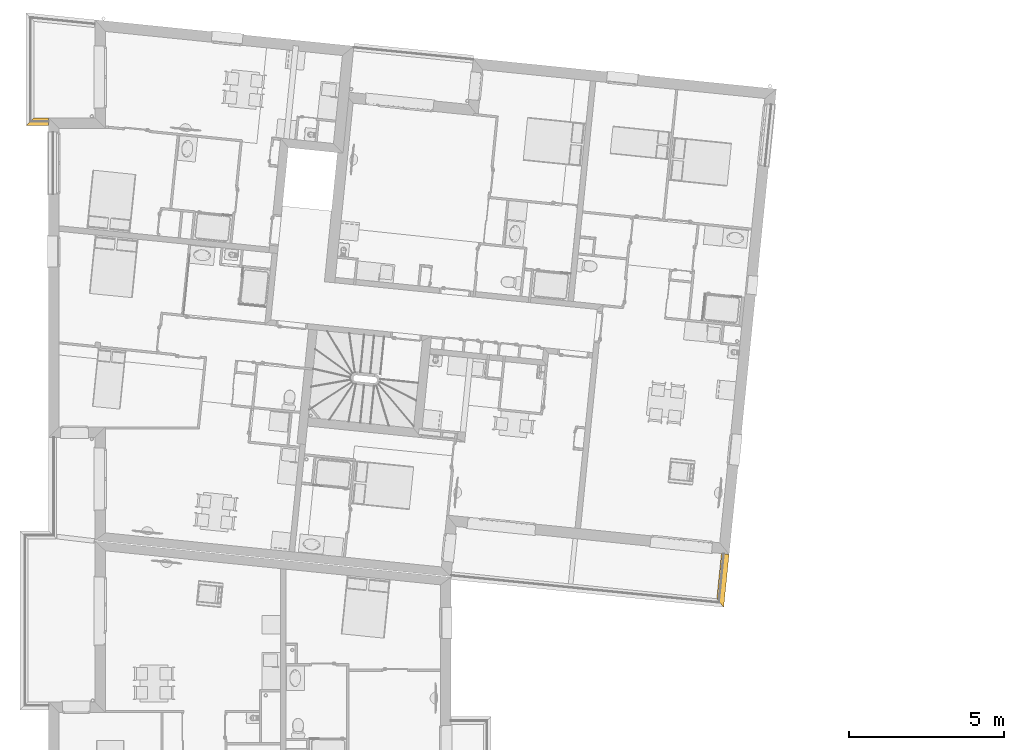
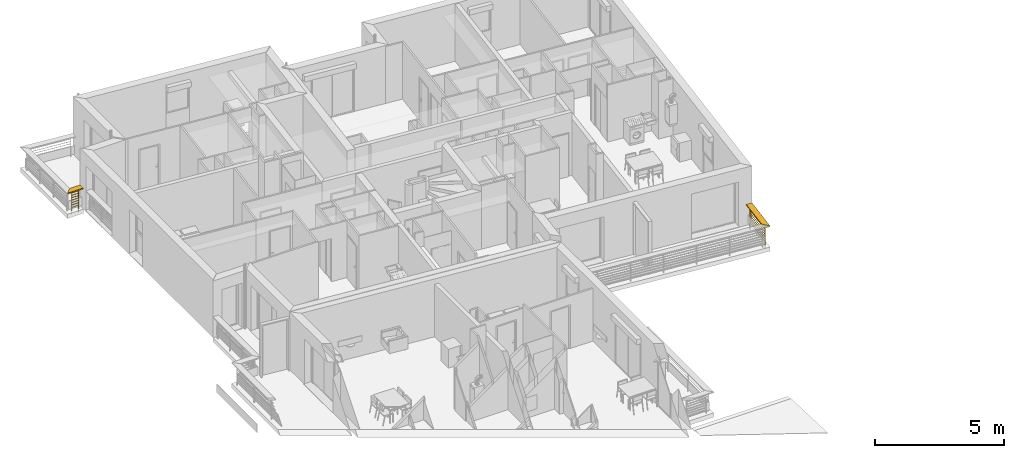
# One storey, part 105 of 164: 2 railings.
"""IFC2X3 building model written with IfcOpenShell, lengths in millimetres."""

from ifc_helpers import new_model, entity, si_unit, converted_unit, derived_unit, money_unit, direction, frame, origin_with_axes, place, context, subcontext, project, spatial, faceted_brep, type_object, element, save


model = new_model("IFC2X3")

# Units and contexts
model_context = context("Model", 3, precision=0.01, world=origin_with_axes(), true_north=direction((0.0, 1.0)))
body_context = subcontext(model_context, "Body", "Model", "MODEL_VIEW")
ifc_project = project(units=[si_unit("LENGTHUNIT", "METRE", prefix="MILLI"), si_unit("AREAUNIT", "SQUARE_METRE"), si_unit("VOLUMEUNIT", "CUBIC_METRE"), converted_unit("PLANEANGLEUNIT", "DEGREE", entity("IfcPlaneAngleMeasure", 0.0174532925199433), si_unit("PLANEANGLEUNIT", "RADIAN"), dimensions=[0, 0, 0, 0, 0, 0, 0]), money_unit("USD"), converted_unit("TIMEUNIT", "Year", entity("IfcTimeMeasure", 31557600.0), si_unit("TIMEUNIT", "SECOND"), dimensions=[0, 0, 1, 0, 0, 0, 0]), si_unit("MASSUNIT", "GRAM", prefix="KILO"), si_unit("THERMODYNAMICTEMPERATUREUNIT", "DEGREE_CELSIUS"), si_unit("LUMINOUSINTENSITYUNIT", "LUMEN"), si_unit("ENERGYUNIT", "JOULE", prefix="MEGA"), derived_unit("THERMALCONDUCTANCEUNIT", [(si_unit("POWERUNIT", "WATT"), 1), (si_unit("LENGTHUNIT", "METRE"), -1), (si_unit("THERMODYNAMICTEMPERATUREUNIT", "KELVIN"), -1)]), derived_unit("SPECIFICHEATCAPACITYUNIT", [(si_unit("ENERGYUNIT", "JOULE"), 1), (si_unit("MASSUNIT", "GRAM", prefix="KILO"), -1), (si_unit("THERMODYNAMICTEMPERATUREUNIT", "KELVIN"), -1)]), derived_unit("MASSDENSITYUNIT", [(si_unit("MASSUNIT", "GRAM", prefix="KILO"), 1), (si_unit("VOLUMEUNIT", "CUBIC_METRE"), -1)])], contexts=[model_context])

# Site, building, storey
site_placement = place(None, origin_with_axes())
site = spatial("IfcSite", under=ifc_project, at=site_placement, Name="Site", CompositionType="ELEMENT")
building_placement = place(site_placement, origin_with_axes())
building = spatial("IfcBuilding", under=site, at=building_placement, Name="Bâtiment", CompositionType="ELEMENT")
storey_placement = place(building_placement, frame((0.0, 0.0, 5750.0), z_axis=(0.0, 0.0, 1.0), x_axis=(1.0, 0.0, 0.0)))
storey = spatial("IfcBuildingStorey", under=building, at=storey_placement, Name="Etage1", CompositionType="ELEMENT", Elevation=5750.0)

# Railings
railing_type = type_object("IfcRailingType", Name="Cadre avec câble 01 20", PredefinedType="NOTDEFINED")
railing_1_placement = place(storey_placement, frame((2238367.398461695, -622865.4537153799, 0.0), z_axis=(0.0, 0.0, 1.0), x_axis=(0.1010841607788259, 0.9948778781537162, 0.0)))
element("IfcRailing", 1, at=railing_1_placement, inside=storey, type_object=railing_type, Name="Obj.-002", PredefinedType="NOTDEFINED", context=body_context, shape_type="Brep", body=[
    faceted_brep([(-124.946485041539, -125.0, 950.0), (124.9464850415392, 125.0, 950.0), (1591.047939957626, 125.0, 950.0), (1591.047939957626, -125.0, 950.0), (-124.946485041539, -125.0, 1000.0), (124.9464850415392, 125.0, 1000.0), (1591.047939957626, 125.0, 1000.0), (1591.047939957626, -125.0, 1000.0)], [[[0, 1, 2, 3]], [[0, 4, 5, 1]], [[2, 1, 5, 6]], [[3, 2, 6, 7]], [[4, 0, 3, 7]], [[5, 4, 7, 6]]]),
    faceted_brep([(84.99999999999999, -25.0, -176.0), (95.0, -25.0, -176.0), (95.0, -25.0, 950.0), (84.99999999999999, -25.0, 950.0), (84.99999999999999, 25.0, -176.0), (95.0, 25.0, -176.0), (95.0, 25.0, 950.0), (84.99999999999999, 25.0, 950.0)], [[[0, 1, 2, 3]], [[0, 4, 5, 1]], [[1, 5, 6, 2]], [[3, 2, 6, 7]], [[4, 0, 3, 7]], [[5, 4, 7, 6]]]),
    faceted_brep([(1496.047939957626, -25.0, -176.0), (1506.047939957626, -25.0, -176.0), (1506.047939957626, -25.0, 950.0), (1496.047939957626, -25.0, 950.0), (1496.047939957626, 25.0, -176.0), (1506.047939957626, 25.0, -176.0), (1506.047939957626, 25.0, 950.0), (1496.047939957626, 25.0, 950.0)], [[[0, 1, 2, 3]], [[0, 4, 5, 1]], [[1, 5, 6, 2]], [[3, 2, 6, 7]], [[4, 0, 3, 7]], [[5, 4, 7, 6]]]),
    faceted_brep([(95.0, 10.82531754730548, 156.25), (95.0, 12.5, 162.5), (1496.047939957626, 12.5, 162.5000000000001), (1496.047939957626, 10.82531754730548, 156.2500000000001), (95.0, 10.82531754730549, 168.75), (95.0, 6.249999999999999, 151.6746824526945), (95.0, 0.0, 150.0), (95.0, -6.250000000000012, 151.6746824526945), (95.0, -10.82531754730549, 156.25), (95.0, -12.5, 162.5), (95.0, -10.82531754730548, 168.75), (95.0, -6.249999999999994, 173.3253175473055), (95.0, 0.0, 175.0), (95.0, 6.250000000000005, 173.3253175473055), (1496.047939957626, 10.82531754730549, 168.7500000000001), (1496.047939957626, 6.250000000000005, 173.3253175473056), (1496.047939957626, 0.0, 175.0000000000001), (1496.047939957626, -6.249999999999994, 173.3253175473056), (1496.047939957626, -10.82531754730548, 168.7500000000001), (1496.047939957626, -12.5, 162.5000000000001), (1496.047939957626, -10.82531754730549, 156.2500000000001), (1496.047939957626, -6.250000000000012, 151.6746824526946), (1496.047939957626, 0.0, 150.0000000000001), (1496.047939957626, 6.249999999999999, 151.6746824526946)], [[[0, 1, 2, 3]], [[4, 1, 0, 5, 6, 7, 8, 9, 10, 11, 12, 13]], [[1, 4, 14, 2]], [[3, 2, 14, 15, 16, 17, 18, 19, 20, 21, 22, 23]], [[5, 0, 3, 23]], [[6, 5, 23, 22]], [[7, 6, 22, 21]], [[8, 7, 21, 20]], [[9, 8, 20, 19]], [[10, 9, 19, 18]], [[11, 10, 18, 17]], [[12, 11, 17, 16]], [[13, 12, 16, 15]], [[4, 13, 15, 14]]]),
    faceted_brep([(95.0, 10.82531754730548, 270.5357142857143), (95.0, 12.5, 276.7857142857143), (1496.047939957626, 12.5, 276.7857142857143), (1496.047939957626, 10.82531754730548, 270.5357142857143), (95.0, 10.82531754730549, 283.0357142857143), (95.0, 6.249999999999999, 265.9603967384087), (95.0, 0.0, 264.2857142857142), (95.0, -6.250000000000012, 265.9603967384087), (95.0, -10.82531754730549, 270.5357142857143), (95.0, -12.5, 276.7857142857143), (95.0, -10.82531754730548, 283.0357142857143), (95.0, -6.249999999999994, 287.6110318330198), (95.0, 0.0, 289.2857142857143), (95.0, 6.250000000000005, 287.6110318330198), (1496.047939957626, 10.82531754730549, 283.0357142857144), (1496.047939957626, 6.250000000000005, 287.6110318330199), (1496.047939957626, 0.0, 289.2857142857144), (1496.047939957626, -6.249999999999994, 287.6110318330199), (1496.047939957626, -10.82531754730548, 283.0357142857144), (1496.047939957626, -12.5, 276.7857142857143), (1496.047939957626, -10.82531754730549, 270.5357142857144), (1496.047939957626, -6.250000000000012, 265.9603967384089), (1496.047939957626, 0.0, 264.2857142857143), (1496.047939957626, 6.249999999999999, 265.9603967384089)], [[[0, 1, 2, 3]], [[4, 1, 0, 5, 6, 7, 8, 9, 10, 11, 12, 13]], [[1, 4, 14, 2]], [[3, 2, 14, 15, 16, 17, 18, 19, 20, 21, 22, 23]], [[5, 0, 3, 23]], [[6, 5, 23, 22]], [[7, 6, 22, 21]], [[8, 7, 21, 20]], [[9, 8, 20, 19]], [[10, 9, 19, 18]], [[11, 10, 18, 17]], [[12, 11, 17, 16]], [[13, 12, 16, 15]], [[4, 13, 15, 14]]]),
    faceted_brep([(95.0, 10.82531754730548, 384.8214285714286), (95.0, 12.5, 391.0714285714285), (1496.047939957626, 12.5, 391.0714285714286), (1496.047939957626, 10.82531754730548, 384.8214285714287), (95.0, 10.82531754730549, 397.3214285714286), (95.0, 6.249999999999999, 380.2461110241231), (95.0, 0.0, 378.5714285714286), (95.0, -6.250000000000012, 380.2461110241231), (95.0, -10.82531754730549, 384.8214285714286), (95.0, -12.5, 391.0714285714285), (95.0, -10.82531754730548, 397.3214285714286), (95.0, -6.249999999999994, 401.896746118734), (95.0, 0.0, 403.5714285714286), (95.0, 6.250000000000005, 401.896746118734), (1496.047939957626, 10.82531754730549, 397.3214285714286), (1496.047939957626, 6.250000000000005, 401.8967461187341), (1496.047939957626, 0.0, 403.5714285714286), (1496.047939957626, -6.249999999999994, 401.8967461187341), (1496.047939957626, -10.82531754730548, 397.3214285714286), (1496.047939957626, -12.5, 391.0714285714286), (1496.047939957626, -10.82531754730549, 384.8214285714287), (1496.047939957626, -6.250000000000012, 380.2461110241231), (1496.047939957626, 0.0, 378.5714285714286), (1496.047939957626, 6.249999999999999, 380.2461110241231)], [[[0, 1, 2, 3]], [[4, 1, 0, 5, 6, 7, 8, 9, 10, 11, 12, 13]], [[1, 4, 14, 2]], [[3, 2, 14, 15, 16, 17, 18, 19, 20, 21, 22, 23]], [[5, 0, 3, 23]], [[6, 5, 23, 22]], [[7, 6, 22, 21]], [[8, 7, 21, 20]], [[9, 8, 20, 19]], [[10, 9, 19, 18]], [[11, 10, 18, 17]], [[12, 11, 17, 16]], [[13, 12, 16, 15]], [[4, 13, 15, 14]]]),
    faceted_brep([(95.0, 10.82531754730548, 499.1071428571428), (95.0, 12.5, 505.3571428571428), (1496.047939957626, 12.5, 505.3571428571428), (1496.047939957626, 10.82531754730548, 499.1071428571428), (95.0, 10.82531754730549, 511.6071428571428), (95.0, 6.249999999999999, 494.5318253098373), (95.0, 0.0, 492.8571428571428), (95.0, -6.250000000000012, 494.5318253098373), (95.0, -10.82531754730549, 499.1071428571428), (95.0, -12.5, 505.3571428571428), (95.0, -10.82531754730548, 511.6071428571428), (95.0, -6.249999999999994, 516.1824604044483), (95.0, 0.0, 517.8571428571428), (95.0, 6.250000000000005, 516.1824604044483), (1496.047939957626, 10.82531754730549, 511.6071428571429), (1496.047939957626, 6.250000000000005, 516.1824604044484), (1496.047939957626, 0.0, 517.8571428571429), (1496.047939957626, -6.249999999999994, 516.1824604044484), (1496.047939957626, -10.82531754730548, 511.6071428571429), (1496.047939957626, -12.5, 505.3571428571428), (1496.047939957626, -10.82531754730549, 499.1071428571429), (1496.047939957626, -6.250000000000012, 494.5318253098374), (1496.047939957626, 0.0, 492.8571428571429), (1496.047939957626, 6.249999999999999, 494.5318253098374)], [[[0, 1, 2, 3]], [[4, 1, 0, 5, 6, 7, 8, 9, 10, 11, 12, 13]], [[1, 4, 14, 2]], [[3, 2, 14, 15, 16, 17, 18, 19, 20, 21, 22, 23]], [[5, 0, 3, 23]], [[6, 5, 23, 22]], [[7, 6, 22, 21]], [[8, 7, 21, 20]], [[9, 8, 20, 19]], [[10, 9, 19, 18]], [[11, 10, 18, 17]], [[12, 11, 17, 16]], [[13, 12, 16, 15]], [[4, 13, 15, 14]]]),
    faceted_brep([(95.0, 10.82531754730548, 613.3928571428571), (95.0, 12.5, 619.642857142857), (1496.047939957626, 12.5, 619.6428571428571), (1496.047939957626, 10.82531754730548, 613.3928571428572), (95.0, 10.82531754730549, 625.892857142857), (95.0, 6.249999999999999, 608.8175395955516), (95.0, 0.0, 607.1428571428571), (95.0, -6.250000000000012, 608.8175395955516), (95.0, -10.82531754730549, 613.3928571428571), (95.0, -12.5, 619.642857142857), (95.0, -10.82531754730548, 625.892857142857), (95.0, -6.249999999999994, 630.4681746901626), (95.0, 0.0, 632.1428571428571), (95.0, 6.250000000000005, 630.4681746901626), (1496.047939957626, 10.82531754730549, 625.8928571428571), (1496.047939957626, 6.250000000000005, 630.4681746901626), (1496.047939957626, 0.0, 632.1428571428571), (1496.047939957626, -6.249999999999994, 630.4681746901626), (1496.047939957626, -10.82531754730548, 625.8928571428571), (1496.047939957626, -12.5, 619.6428571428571), (1496.047939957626, -10.82531754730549, 613.3928571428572), (1496.047939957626, -6.250000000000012, 608.8175395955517), (1496.047939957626, 0.0, 607.1428571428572), (1496.047939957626, 6.249999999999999, 608.8175395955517)], [[[0, 1, 2, 3]], [[4, 1, 0, 5, 6, 7, 8, 9, 10, 11, 12, 13]], [[1, 4, 14, 2]], [[3, 2, 14, 15, 16, 17, 18, 19, 20, 21, 22, 23]], [[5, 0, 3, 23]], [[6, 5, 23, 22]], [[7, 6, 22, 21]], [[8, 7, 21, 20]], [[9, 8, 20, 19]], [[10, 9, 19, 18]], [[11, 10, 18, 17]], [[12, 11, 17, 16]], [[13, 12, 16, 15]], [[4, 13, 15, 14]]]),
    faceted_brep([(95.0, 10.82531754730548, 727.6785714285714), (95.0, 12.5, 733.9285714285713), (1496.047939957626, 12.5, 733.9285714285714), (1496.047939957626, 10.82531754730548, 727.6785714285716), (95.0, 10.82531754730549, 740.1785714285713), (95.0, 6.249999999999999, 723.1032538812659), (95.0, 0.0, 721.4285714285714), (95.0, -6.250000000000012, 723.1032538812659), (95.0, -10.82531754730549, 727.6785714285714), (95.0, -12.5, 733.9285714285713), (95.0, -10.82531754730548, 740.1785714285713), (95.0, -6.249999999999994, 744.7538889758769), (95.0, 0.0, 746.4285714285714), (95.0, 6.250000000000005, 744.7538889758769), (1496.047939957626, 10.82531754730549, 740.1785714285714), (1496.047939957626, 6.250000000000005, 744.7538889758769), (1496.047939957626, 0.0, 746.4285714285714), (1496.047939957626, -6.249999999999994, 744.7538889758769), (1496.047939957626, -10.82531754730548, 740.1785714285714), (1496.047939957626, -12.5, 733.9285714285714), (1496.047939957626, -10.82531754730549, 727.6785714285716), (1496.047939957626, -6.250000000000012, 723.103253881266), (1496.047939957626, 0.0, 721.4285714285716), (1496.047939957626, 6.249999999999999, 723.103253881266)], [[[0, 1, 2, 3]], [[4, 1, 0, 5, 6, 7, 8, 9, 10, 11, 12, 13]], [[1, 4, 14, 2]], [[3, 2, 14, 15, 16, 17, 18, 19, 20, 21, 22, 23]], [[5, 0, 3, 23]], [[6, 5, 23, 22]], [[7, 6, 22, 21]], [[8, 7, 21, 20]], [[9, 8, 20, 19]], [[10, 9, 19, 18]], [[11, 10, 18, 17]], [[12, 11, 17, 16]], [[13, 12, 16, 15]], [[4, 13, 15, 14]]]),
    faceted_brep([(95.0, 10.82531754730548, 841.9642857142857), (95.0, 12.5, 848.2142857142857), (1496.047939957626, 12.5, 848.2142857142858), (1496.047939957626, 10.82531754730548, 841.9642857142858), (95.0, 10.82531754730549, 854.4642857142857), (95.0, 6.249999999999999, 837.3889681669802), (95.0, 0.0, 835.7142857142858), (95.0, -6.250000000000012, 837.3889681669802), (95.0, -10.82531754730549, 841.9642857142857), (95.0, -12.5, 848.2142857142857), (95.0, -10.82531754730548, 854.4642857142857), (95.0, -6.249999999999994, 859.0396032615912), (95.0, 0.0, 860.7142857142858), (95.0, 6.250000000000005, 859.0396032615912), (1496.047939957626, 10.82531754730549, 854.4642857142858), (1496.047939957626, 6.250000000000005, 859.0396032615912), (1496.047939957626, 0.0, 860.7142857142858), (1496.047939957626, -6.249999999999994, 859.0396032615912), (1496.047939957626, -10.82531754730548, 854.4642857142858), (1496.047939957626, -12.5, 848.2142857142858), (1496.047939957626, -10.82531754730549, 841.9642857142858), (1496.047939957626, -6.250000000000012, 837.3889681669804), (1496.047939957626, 0.0, 835.7142857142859), (1496.047939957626, 6.249999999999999, 837.3889681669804)], [[[0, 1, 2, 3]], [[4, 1, 0, 5, 6, 7, 8, 9, 10, 11, 12, 13]], [[1, 4, 14, 2]], [[3, 2, 14, 15, 16, 17, 18, 19, 20, 21, 22, 23]], [[5, 0, 3, 23]], [[6, 5, 23, 22]], [[7, 6, 22, 21]], [[8, 7, 21, 20]], [[9, 8, 20, 19]], [[10, 9, 19, 18]], [[11, 10, 18, 17]], [[12, 11, 17, 16]], [[13, 12, 16, 15]], [[4, 13, 15, 14]]]),
])
railing_2_placement = place(storey_placement, frame((2216033.871261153, -607292.3879007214, 0.0), z_axis=(0.0, 0.0, 1.0), x_axis=(1.0, 0.0, 0.0)))
element("IfcRailing", 2, at=railing_2_placement, inside=storey, type_object=railing_type, Name="Obj.-002", PredefinedType="NOTDEFINED", context=body_context, shape_type="Brep", body=[
    faceted_brep([(-125.0000000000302, -125.0, 950.0), (125.0000000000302, 125.0, 950.0), (600.3620836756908, 125.0, 950.0), (600.3620836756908, -125.0, 950.0), (-125.0000000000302, -125.0, 1000.0), (125.0000000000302, 125.0, 1000.0), (600.3620836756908, 125.0, 1000.0), (600.3620836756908, -125.0, 1000.0)], [[[0, 1, 2, 3]], [[0, 4, 5, 1]], [[2, 1, 5, 6]], [[3, 2, 6, 7]], [[4, 0, 3, 7]], [[5, 4, 7, 6]]]),
    faceted_brep([(145.0, -25.0, -176.0), (155.0, -25.0, -176.0), (155.0, -25.0, 950.0), (145.0, -25.0, 950.0), (145.0, 25.0, -176.0), (155.0, 25.0, -176.0), (155.0, 25.0, 950.0), (145.0, 25.0, 950.0)], [[[0, 1, 2, 3]], [[0, 4, 5, 1]], [[1, 5, 6, 2]], [[3, 2, 6, 7]], [[4, 0, 3, 7]], [[5, 4, 7, 6]]]),
    faceted_brep([(445.3620836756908, -25.0, -176.0), (455.3620836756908, -25.0, -176.0), (455.3620836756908, -25.0, 950.0), (445.3620836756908, -25.0, 950.0), (445.3620836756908, 25.0, -176.0), (455.3620836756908, 25.0, -176.0), (455.3620836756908, 25.0, 950.0), (445.3620836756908, 25.0, 950.0)], [[[0, 1, 2, 3]], [[0, 4, 5, 1]], [[1, 5, 6, 2]], [[3, 2, 6, 7]], [[4, 0, 3, 7]], [[5, 4, 7, 6]]]),
    faceted_brep([(155.0, 10.82531754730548, 156.25), (155.0, 12.5, 162.5), (445.3620836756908, 12.5, 162.5), (445.3620836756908, 10.82531754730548, 156.25), (155.0, 10.82531754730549, 168.75), (155.0, 6.249999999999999, 151.6746824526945), (155.0, 0.0, 150.0), (155.0, -6.250000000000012, 151.6746824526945), (155.0, -10.82531754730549, 156.25), (155.0, -12.5, 162.5), (155.0, -10.82531754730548, 168.75), (155.0, -6.249999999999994, 173.3253175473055), (155.0, 0.0, 175.0), (155.0, 6.250000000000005, 173.3253175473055), (445.3620836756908, 10.82531754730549, 168.75), (445.3620836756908, 6.250000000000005, 173.3253175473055), (445.3620836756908, 0.0, 175.0), (445.3620836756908, -6.249999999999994, 173.3253175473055), (445.3620836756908, -10.82531754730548, 168.75), (445.3620836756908, -12.5, 162.5), (445.3620836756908, -10.82531754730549, 156.25), (445.3620836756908, -6.250000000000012, 151.6746824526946), (445.3620836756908, 0.0, 150.0), (445.3620836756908, 6.249999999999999, 151.6746824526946)], [[[0, 1, 2, 3]], [[4, 1, 0, 5, 6, 7, 8, 9, 10, 11, 12, 13]], [[1, 4, 14, 2]], [[3, 2, 14, 15, 16, 17, 18, 19, 20, 21, 22, 23]], [[5, 0, 3, 23]], [[6, 5, 23, 22]], [[7, 6, 22, 21]], [[8, 7, 21, 20]], [[9, 8, 20, 19]], [[10, 9, 19, 18]], [[11, 10, 18, 17]], [[12, 11, 17, 16]], [[13, 12, 16, 15]], [[4, 13, 15, 14]]]),
    faceted_brep([(155.0, 10.82531754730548, 270.5357142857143), (155.0, 12.5, 276.7857142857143), (445.3620836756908, 12.5, 276.7857142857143), (445.3620836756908, 10.82531754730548, 270.5357142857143), (155.0, 10.82531754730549, 283.0357142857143), (155.0, 6.249999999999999, 265.9603967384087), (155.0, 0.0, 264.2857142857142), (155.0, -6.250000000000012, 265.9603967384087), (155.0, -10.82531754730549, 270.5357142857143), (155.0, -12.5, 276.7857142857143), (155.0, -10.82531754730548, 283.0357142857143), (155.0, -6.249999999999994, 287.6110318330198), (155.0, 0.0, 289.2857142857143), (155.0, 6.250000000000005, 287.6110318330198), (445.3620836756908, 10.82531754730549, 283.0357142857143), (445.3620836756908, 6.250000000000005, 287.6110318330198), (445.3620836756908, 0.0, 289.2857142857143), (445.3620836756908, -6.249999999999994, 287.6110318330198), (445.3620836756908, -10.82531754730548, 283.0357142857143), (445.3620836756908, -12.5, 276.7857142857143), (445.3620836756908, -10.82531754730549, 270.5357142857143), (445.3620836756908, -6.250000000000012, 265.9603967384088), (445.3620836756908, 0.0, 264.2857142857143), (445.3620836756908, 6.249999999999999, 265.9603967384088)], [[[0, 1, 2, 3]], [[4, 1, 0, 5, 6, 7, 8, 9, 10, 11, 12, 13]], [[1, 4, 14, 2]], [[3, 2, 14, 15, 16, 17, 18, 19, 20, 21, 22, 23]], [[5, 0, 3, 23]], [[6, 5, 23, 22]], [[7, 6, 22, 21]], [[8, 7, 21, 20]], [[9, 8, 20, 19]], [[10, 9, 19, 18]], [[11, 10, 18, 17]], [[12, 11, 17, 16]], [[13, 12, 16, 15]], [[4, 13, 15, 14]]]),
    faceted_brep([(155.0, 10.82531754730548, 384.8214285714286), (155.0, 12.5, 391.0714285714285), (445.3620836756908, 12.5, 391.0714285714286), (445.3620836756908, 10.82531754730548, 384.8214285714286), (155.0, 10.82531754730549, 397.3214285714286), (155.0, 6.249999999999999, 380.2461110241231), (155.0, 0.0, 378.5714285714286), (155.0, -6.250000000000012, 380.2461110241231), (155.0, -10.82531754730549, 384.8214285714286), (155.0, -12.5, 391.0714285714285), (155.0, -10.82531754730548, 397.3214285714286), (155.0, -6.249999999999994, 401.896746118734), (155.0, 0.0, 403.5714285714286), (155.0, 6.250000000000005, 401.896746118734), (445.3620836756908, 10.82531754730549, 397.3214285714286), (445.3620836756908, 6.250000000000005, 401.896746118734), (445.3620836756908, 0.0, 403.5714285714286), (445.3620836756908, -6.249999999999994, 401.896746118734), (445.3620836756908, -10.82531754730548, 397.3214285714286), (445.3620836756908, -12.5, 391.0714285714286), (445.3620836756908, -10.82531754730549, 384.8214285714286), (445.3620836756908, -6.250000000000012, 380.2461110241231), (445.3620836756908, 0.0, 378.5714285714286), (445.3620836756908, 6.249999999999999, 380.2461110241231)], [[[0, 1, 2, 3]], [[4, 1, 0, 5, 6, 7, 8, 9, 10, 11, 12, 13]], [[1, 4, 14, 2]], [[3, 2, 14, 15, 16, 17, 18, 19, 20, 21, 22, 23]], [[5, 0, 3, 23]], [[6, 5, 23, 22]], [[7, 6, 22, 21]], [[8, 7, 21, 20]], [[9, 8, 20, 19]], [[10, 9, 19, 18]], [[11, 10, 18, 17]], [[12, 11, 17, 16]], [[13, 12, 16, 15]], [[4, 13, 15, 14]]]),
    faceted_brep([(155.0, 10.82531754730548, 499.1071428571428), (155.0, 12.5, 505.3571428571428), (445.3620836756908, 12.5, 505.3571428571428), (445.3620836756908, 10.82531754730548, 499.1071428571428), (155.0, 10.82531754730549, 511.6071428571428), (155.0, 6.249999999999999, 494.5318253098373), (155.0, 0.0, 492.8571428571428), (155.0, -6.250000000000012, 494.5318253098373), (155.0, -10.82531754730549, 499.1071428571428), (155.0, -12.5, 505.3571428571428), (155.0, -10.82531754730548, 511.6071428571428), (155.0, -6.249999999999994, 516.1824604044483), (155.0, 0.0, 517.8571428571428), (155.0, 6.250000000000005, 516.1824604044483), (445.3620836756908, 10.82531754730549, 511.6071428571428), (445.3620836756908, 6.250000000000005, 516.1824604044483), (445.3620836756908, 0.0, 517.8571428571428), (445.3620836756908, -6.249999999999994, 516.1824604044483), (445.3620836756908, -10.82531754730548, 511.6071428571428), (445.3620836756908, -12.5, 505.3571428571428), (445.3620836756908, -10.82531754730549, 499.1071428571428), (445.3620836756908, -6.250000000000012, 494.5318253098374), (445.3620836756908, 0.0, 492.8571428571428), (445.3620836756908, 6.249999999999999, 494.5318253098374)], [[[0, 1, 2, 3]], [[4, 1, 0, 5, 6, 7, 8, 9, 10, 11, 12, 13]], [[1, 4, 14, 2]], [[3, 2, 14, 15, 16, 17, 18, 19, 20, 21, 22, 23]], [[5, 0, 3, 23]], [[6, 5, 23, 22]], [[7, 6, 22, 21]], [[8, 7, 21, 20]], [[9, 8, 20, 19]], [[10, 9, 19, 18]], [[11, 10, 18, 17]], [[12, 11, 17, 16]], [[13, 12, 16, 15]], [[4, 13, 15, 14]]]),
    faceted_brep([(155.0, 10.82531754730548, 613.3928571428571), (155.0, 12.5, 619.642857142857), (445.3620836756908, 12.5, 619.6428571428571), (445.3620836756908, 10.82531754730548, 613.3928571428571), (155.0, 10.82531754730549, 625.892857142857), (155.0, 6.249999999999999, 608.8175395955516), (155.0, 0.0, 607.1428571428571), (155.0, -6.250000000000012, 608.8175395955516), (155.0, -10.82531754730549, 613.3928571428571), (155.0, -12.5, 619.642857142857), (155.0, -10.82531754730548, 625.892857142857), (155.0, -6.249999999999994, 630.4681746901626), (155.0, 0.0, 632.1428571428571), (155.0, 6.250000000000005, 630.4681746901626), (445.3620836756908, 10.82531754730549, 625.892857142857), (445.3620836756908, 6.250000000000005, 630.4681746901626), (445.3620836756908, 0.0, 632.1428571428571), (445.3620836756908, -6.249999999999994, 630.4681746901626), (445.3620836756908, -10.82531754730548, 625.8928571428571), (445.3620836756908, -12.5, 619.6428571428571), (445.3620836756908, -10.82531754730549, 613.3928571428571), (445.3620836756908, -6.250000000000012, 608.8175395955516), (445.3620836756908, 0.0, 607.1428571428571), (445.3620836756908, 6.249999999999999, 608.8175395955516)], [[[0, 1, 2, 3]], [[4, 1, 0, 5, 6, 7, 8, 9, 10, 11, 12, 13]], [[1, 4, 14, 2]], [[3, 2, 14, 15, 16, 17, 18, 19, 20, 21, 22, 23]], [[5, 0, 3, 23]], [[6, 5, 23, 22]], [[7, 6, 22, 21]], [[8, 7, 21, 20]], [[9, 8, 20, 19]], [[10, 9, 19, 18]], [[11, 10, 18, 17]], [[12, 11, 17, 16]], [[13, 12, 16, 15]], [[4, 13, 15, 14]]]),
    faceted_brep([(155.0, 10.82531754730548, 727.6785714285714), (155.0, 12.5, 733.9285714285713), (445.3620836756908, 12.5, 733.9285714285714), (445.3620836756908, 10.82531754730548, 727.6785714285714), (155.0, 10.82531754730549, 740.1785714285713), (155.0, 6.249999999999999, 723.1032538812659), (155.0, 0.0, 721.4285714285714), (155.0, -6.250000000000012, 723.1032538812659), (155.0, -10.82531754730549, 727.6785714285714), (155.0, -12.5, 733.9285714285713), (155.0, -10.82531754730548, 740.1785714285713), (155.0, -6.249999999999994, 744.7538889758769), (155.0, 0.0, 746.4285714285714), (155.0, 6.250000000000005, 744.7538889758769), (445.3620836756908, 10.82531754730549, 740.1785714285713), (445.3620836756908, 6.250000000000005, 744.7538889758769), (445.3620836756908, 0.0, 746.4285714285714), (445.3620836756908, -6.249999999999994, 744.7538889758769), (445.3620836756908, -10.82531754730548, 740.1785714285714), (445.3620836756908, -12.5, 733.9285714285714), (445.3620836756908, -10.82531754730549, 727.6785714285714), (445.3620836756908, -6.250000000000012, 723.1032538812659), (445.3620836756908, 0.0, 721.4285714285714), (445.3620836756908, 6.249999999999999, 723.1032538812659)], [[[0, 1, 2, 3]], [[4, 1, 0, 5, 6, 7, 8, 9, 10, 11, 12, 13]], [[1, 4, 14, 2]], [[3, 2, 14, 15, 16, 17, 18, 19, 20, 21, 22, 23]], [[5, 0, 3, 23]], [[6, 5, 23, 22]], [[7, 6, 22, 21]], [[8, 7, 21, 20]], [[9, 8, 20, 19]], [[10, 9, 19, 18]], [[11, 10, 18, 17]], [[12, 11, 17, 16]], [[13, 12, 16, 15]], [[4, 13, 15, 14]]]),
    faceted_brep([(155.0, 10.82531754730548, 841.9642857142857), (155.0, 12.5, 848.2142857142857), (445.3620836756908, 12.5, 848.2142857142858), (445.3620836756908, 10.82531754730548, 841.9642857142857), (155.0, 10.82531754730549, 854.4642857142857), (155.0, 6.249999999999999, 837.3889681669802), (155.0, 0.0, 835.7142857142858), (155.0, -6.250000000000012, 837.3889681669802), (155.0, -10.82531754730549, 841.9642857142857), (155.0, -12.5, 848.2142857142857), (155.0, -10.82531754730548, 854.4642857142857), (155.0, -6.249999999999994, 859.0396032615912), (155.0, 0.0, 860.7142857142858), (155.0, 6.250000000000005, 859.0396032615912), (445.3620836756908, 10.82531754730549, 854.4642857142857), (445.3620836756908, 6.250000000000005, 859.0396032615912), (445.3620836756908, 0.0, 860.7142857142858), (445.3620836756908, -6.249999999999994, 859.0396032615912), (445.3620836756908, -10.82531754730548, 854.4642857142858), (445.3620836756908, -12.5, 848.2142857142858), (445.3620836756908, -10.82531754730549, 841.9642857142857), (445.3620836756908, -6.250000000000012, 837.3889681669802), (445.3620836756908, 0.0, 835.7142857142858), (445.3620836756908, 6.249999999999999, 837.3889681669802)], [[[0, 1, 2, 3]], [[4, 1, 0, 5, 6, 7, 8, 9, 10, 11, 12, 13]], [[1, 4, 14, 2]], [[3, 2, 14, 15, 16, 17, 18, 19, 20, 21, 22, 23]], [[5, 0, 3, 23]], [[6, 5, 23, 22]], [[7, 6, 22, 21]], [[8, 7, 21, 20]], [[9, 8, 20, 19]], [[10, 9, 19, 18]], [[11, 10, 18, 17]], [[12, 11, 17, 16]], [[13, 12, 16, 15]], [[4, 13, 15, 14]]]),
])

save(model, "model.ifc")
